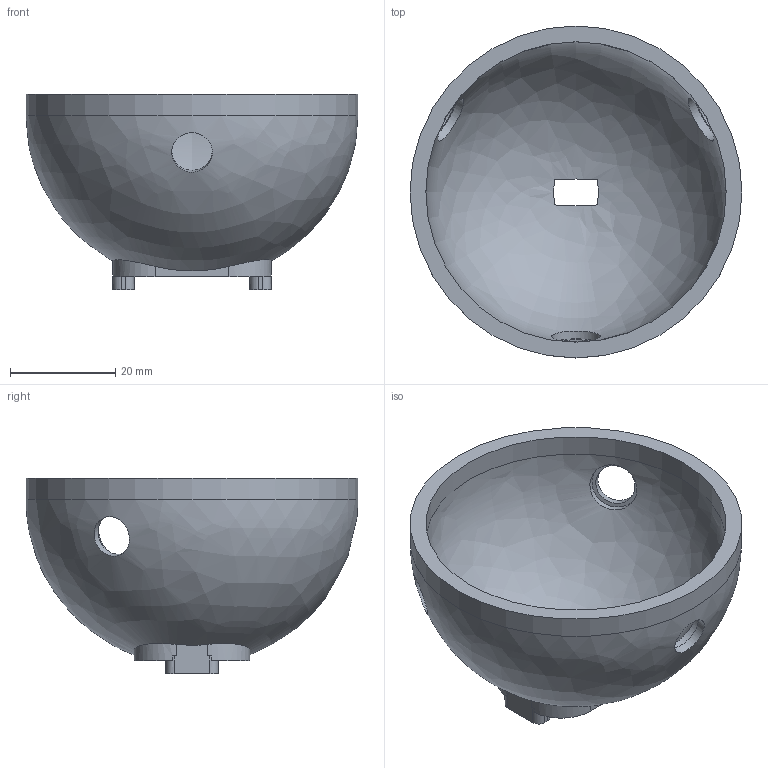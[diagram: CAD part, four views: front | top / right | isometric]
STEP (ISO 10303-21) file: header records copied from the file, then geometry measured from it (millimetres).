
FILE_DESCRIPTION(('Open CASCADE Model'),'2;1');
FILE_NAME('Open CASCADE Shape Model','2026-06-04T07:57:39',('Author'),( 'Open CASCADE'),'Open CASCADE STEP processor 7.6','Open CASCADE 7.6' ,'Unknown');
FILE_SCHEMA(('AP242_MANAGED_MODEL_BASED_3D_ENGINEERING_MIM_LF. {1 0 10303 442 1 1 4 }'));
Length unit declared in the file: millimetre
Products named in the file (1): Open CASCADE STEP translator 7.6 2
Bounding box: 63 x 63 x 37.1 mm (x, y, z)
Volume: 18926 mm3; surface area: 13772.7 mm2
Topology: 1 solids, 1 shells, 71 faces, 194 edges, 128 vertices
Faces by surface type: plane 35, cylinder 28, bspline 4, revolution 2, cone 2
Full cylindrical faces by diameter (mm): 2.05 x2, 7.7 x3, 9.2 x3, 57 x1, 63 x1
Entity records: 8032 total; most frequent: CARTESIAN_POINT 4214, DIRECTION 702, ORIENTED_EDGE 384, PCURVE 384, DEFINITIONAL_REPRESENTATION 384, LINE 382, VECTOR 382, EDGE_CURVE 192
